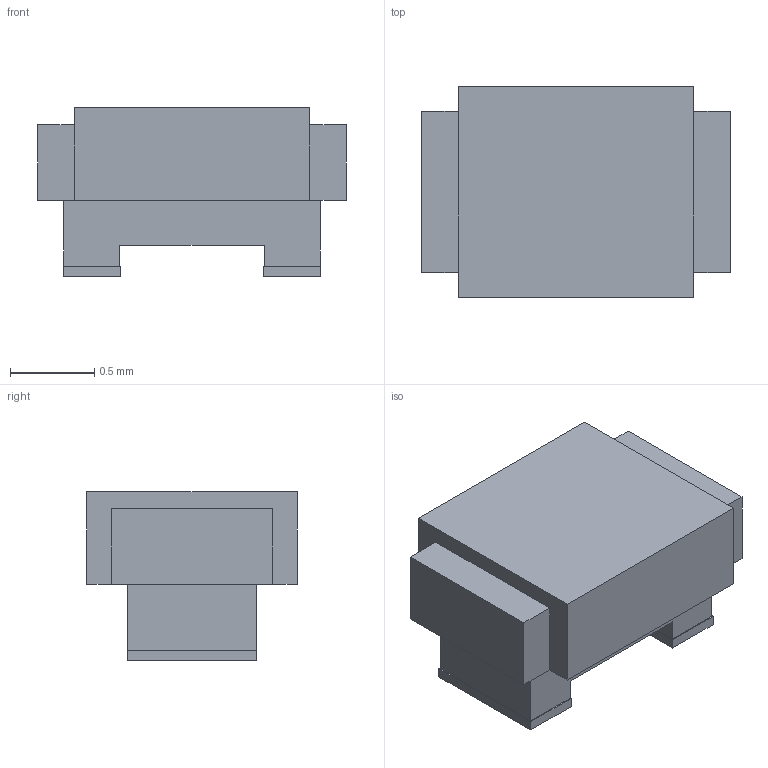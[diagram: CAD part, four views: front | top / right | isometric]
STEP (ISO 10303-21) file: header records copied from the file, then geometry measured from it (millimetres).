
FILE_DESCRIPTION(('STEP AP203'), '1');
FILE_NAME('KIK 1608 (0603) Çë', '', ('UNSPECIFIED'), ('UNSPECIFIED'), 'ASCON STEP Converter 1.6', 'ASCON Math Kernel', '');
FILE_SCHEMA(('CONFIG_CONTROL_DESIGN'));
Length unit declared in the file: millimetre
Assembly tree (1 placements, depth 2):
  (unnamed)
    (unnamed)
Bounding box: 1.83 x 1.25 x 1 mm (x, y, z)
Volume: 1.5 mm3; surface area: 9.7 mm2
Topology: 1 solids, 2 shells, 52 faces, 135 edges, 90 vertices
Faces by surface type: plane 48, cylinder 4
Entity records: 2079 total; most frequent: CARTESIAN_POINT 279, ORIENTED_EDGE 270, DIRECTION 251, EDGE_CURVE 135, LINE 127, VECTOR 127, VERTEX_POINT 90, AXIS2_PLACEMENT_3D 62
